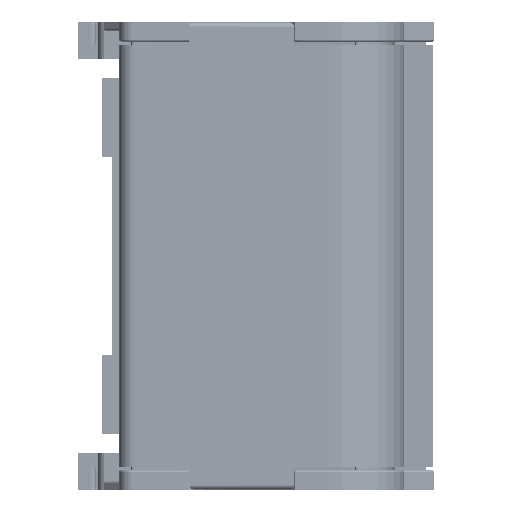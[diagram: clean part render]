
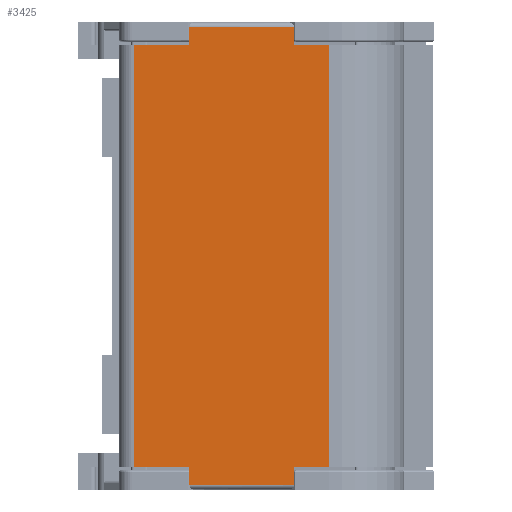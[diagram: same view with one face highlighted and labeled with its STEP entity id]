
A CAD part, left-side view. The second image highlights one B-rep face of the part: STEP entity #3425.
In plain terms, the highlighted planar face has unit normal (-1, 0, 0).
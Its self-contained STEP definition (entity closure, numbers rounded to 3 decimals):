
#3425=ADVANCED_FACE('',(#5676),#4680,.F.);
#4680=PLANE('',#27419);
#5676=FACE_OUTER_BOUND('',#7077,.T.);
#7077=EDGE_LOOP('',(#11865,#11866,#11867,#11868,#11869,#11870,#11871,#11872,
#11873,#11874,#11875,#11876,#11877,#11878));
#11865=ORIENTED_EDGE('',*,*,#20021,.F.);
#11866=ORIENTED_EDGE('',*,*,#20022,.F.);
#11867=ORIENTED_EDGE('',*,*,#20023,.F.);
#11868=ORIENTED_EDGE('',*,*,#20024,.T.);
#11869=ORIENTED_EDGE('',*,*,#20025,.T.);
#11870=ORIENTED_EDGE('',*,*,#20026,.F.);
#11871=ORIENTED_EDGE('',*,*,#20027,.T.);
#11872=ORIENTED_EDGE('',*,*,#20028,.T.);
#11873=ORIENTED_EDGE('',*,*,#20029,.T.);
#11874=ORIENTED_EDGE('',*,*,#20030,.T.);
#11875=ORIENTED_EDGE('',*,*,#20031,.F.);
#11876=ORIENTED_EDGE('',*,*,#20032,.F.);
#11877=ORIENTED_EDGE('',*,*,#20033,.F.);
#11878=ORIENTED_EDGE('',*,*,#20034,.T.);
#16825=VERTEX_POINT('',#41840);
#16826=VERTEX_POINT('',#41841);
#16827=VERTEX_POINT('',#41843);
#16828=VERTEX_POINT('',#41845);
#16829=VERTEX_POINT('',#41847);
#16830=VERTEX_POINT('',#41849);
#16831=VERTEX_POINT('',#41851);
#16832=VERTEX_POINT('',#41853);
#16833=VERTEX_POINT('',#41855);
#16834=VERTEX_POINT('',#41857);
#16835=VERTEX_POINT('',#41859);
#16836=VERTEX_POINT('',#41861);
#16837=VERTEX_POINT('',#41863);
#16838=VERTEX_POINT('',#41865);
#20021=EDGE_CURVE('',#16825,#16826,#23484,.T.);
#20022=EDGE_CURVE('',#16827,#16825,#23485,.T.);
#20023=EDGE_CURVE('',#16828,#16827,#23486,.T.);
#20024=EDGE_CURVE('',#16828,#16829,#23487,.T.);
#20025=EDGE_CURVE('',#16829,#16830,#23488,.T.);
#20026=EDGE_CURVE('',#16831,#16830,#23489,.T.);
#20027=EDGE_CURVE('',#16831,#16832,#23490,.T.);
#20028=EDGE_CURVE('',#16832,#16833,#23491,.T.);
#20029=EDGE_CURVE('',#16833,#16834,#23492,.T.);
#20030=EDGE_CURVE('',#16834,#16835,#23493,.T.);
#20031=EDGE_CURVE('',#16836,#16835,#23494,.T.);
#20032=EDGE_CURVE('',#16837,#16836,#23495,.T.);
#20033=EDGE_CURVE('',#16838,#16837,#23496,.T.);
#20034=EDGE_CURVE('',#16838,#16826,#23497,.T.);
#23484=LINE('',#41839,#25707);
#23485=LINE('',#41842,#25708);
#23486=LINE('',#41844,#25709);
#23487=LINE('',#41846,#25710);
#23488=LINE('',#41848,#25711);
#23489=LINE('',#41850,#25712);
#23490=LINE('',#41852,#25713);
#23491=LINE('',#41854,#25714);
#23492=LINE('',#41856,#25715);
#23493=LINE('',#41858,#25716);
#23494=LINE('',#41860,#25717);
#23495=LINE('',#41862,#25718);
#23496=LINE('',#41864,#25719);
#23497=LINE('',#41866,#25720);
#25707=VECTOR('',#32012,1.);
#25708=VECTOR('',#32013,1.);
#25709=VECTOR('',#32014,1.);
#25710=VECTOR('',#32015,1.);
#25711=VECTOR('',#32016,1.);
#25712=VECTOR('',#32017,1.);
#25713=VECTOR('',#32018,1.);
#25714=VECTOR('',#32019,1.);
#25715=VECTOR('',#32020,1.);
#25716=VECTOR('',#32021,1.);
#25717=VECTOR('',#32022,1.);
#25718=VECTOR('',#32023,1.);
#25719=VECTOR('',#32024,1.);
#25720=VECTOR('',#32025,1.);
#27419=AXIS2_PLACEMENT_3D('',#41867,#32026,#32027);
#32012=DIRECTION('',(0.,-1.,0.));
#32013=DIRECTION('',(0.,0.,1.));
#32014=DIRECTION('',(0.,-1.,0.));
#32015=DIRECTION('',(0.,0.,-1.));
#32016=DIRECTION('',(0.,-1.,0.));
#32017=DIRECTION('',(0.,0.,1.));
#32018=DIRECTION('',(0.,-1.,0.));
#32019=DIRECTION('',(0.,-1.,0.));
#32020=DIRECTION('',(0.,0.,1.));
#32021=DIRECTION('',(0.,-1.,0.));
#32022=DIRECTION('',(0.,0.,-1.));
#32023=DIRECTION('',(0.,0.,-1.));
#32024=DIRECTION('',(0.,-1.,0.));
#32025=DIRECTION('',(0.,0.,1.));
#32026=DIRECTION('',(1.,0.,0.));
#32027=DIRECTION('',(0.,1.,0.));
#41839=CARTESIAN_POINT('',(6.937,-176.566,-107.997));
#41840=CARTESIAN_POINT('',(6.937,-183.816,-107.997));
#41841=CARTESIAN_POINT('',(6.937,-198.116,-107.997));
#41842=CARTESIAN_POINT('',(6.937,-183.816,-165.));
#41843=CARTESIAN_POINT('',(6.937,-183.816,-110.4));
#41844=CARTESIAN_POINT('',(6.937,-176.366,-110.4));
#41845=CARTESIAN_POINT('',(6.937,-176.166,-110.4));
#41846=CARTESIAN_POINT('',(6.937,-176.166,-164.4));
#41847=CARTESIAN_POINT('',(6.937,-176.166,-168.2));
#41848=CARTESIAN_POINT('',(6.937,-176.366,-168.2));
#41849=CARTESIAN_POINT('',(6.937,-183.816,-168.2));
#41850=CARTESIAN_POINT('',(6.937,-183.816,-164.4));
#41851=CARTESIAN_POINT('',(6.937,-183.816,-170.55));
#41852=CARTESIAN_POINT('',(6.937,-176.566,-170.55));
#41853=CARTESIAN_POINT('',(6.937,-189.603,-170.55));
#41854=CARTESIAN_POINT('',(6.937,-176.566,-170.55));
#41855=CARTESIAN_POINT('',(6.937,-198.116,-170.55));
#41856=CARTESIAN_POINT('',(6.937,-198.116,-164.4));
#41857=CARTESIAN_POINT('',(6.937,-198.116,-168.2));
#41858=CARTESIAN_POINT('',(6.937,-176.566,-168.2));
#41859=CARTESIAN_POINT('',(6.937,-202.966,-168.2));
#41860=CARTESIAN_POINT('',(6.937,-202.966,-139.));
#41861=CARTESIAN_POINT('',(6.937,-202.966,-160.358));
#41862=CARTESIAN_POINT('',(6.937,-202.966,-139.));
#41863=CARTESIAN_POINT('',(6.937,-202.966,-110.4));
#41864=CARTESIAN_POINT('',(6.937,-176.566,-110.4));
#41865=CARTESIAN_POINT('',(6.937,-198.116,-110.4));
#41866=CARTESIAN_POINT('',(6.937,-198.116,-165.));
#41867=CARTESIAN_POINT('',(6.937,-176.566,-164.4));
